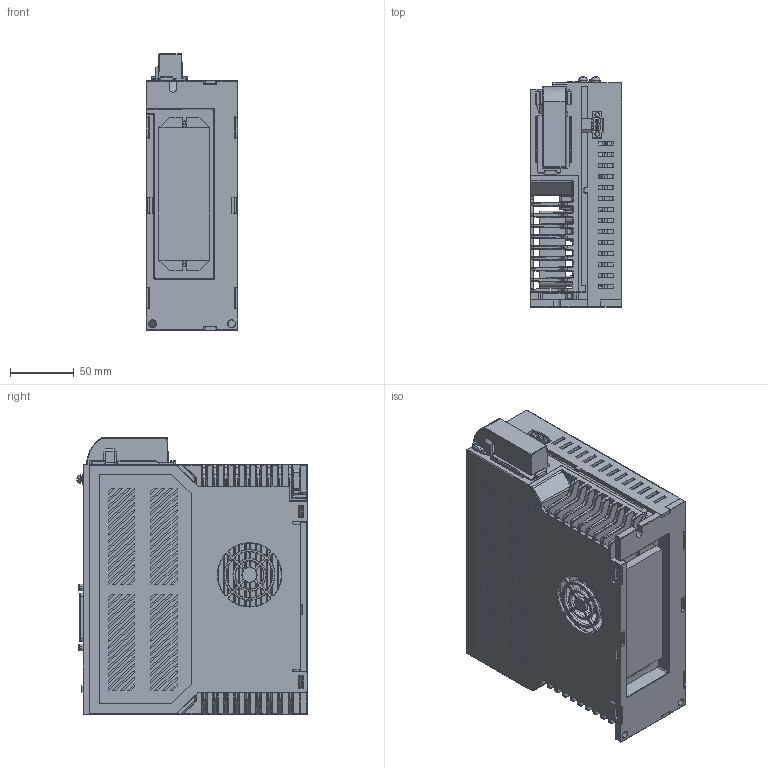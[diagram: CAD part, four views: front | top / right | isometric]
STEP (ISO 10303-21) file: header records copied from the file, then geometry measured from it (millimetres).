
FILE_DESCRIPTION((''),'2;1');
FILE_NAME('00-RT3000_ASM','2021-01-21T',('Administrator'),(''),'PRO/ENGINEER BY PARAMETRIC TECHNOLOGY CORPORATION, 2011310','PRO/ENGINEER BY PARAMETRIC TECHNOLOGY CORPORATION, 2011310','');
FILE_SCHEMA(('CONFIG_CONTROL_DESIGN','SHAPE_APPEARANCE_LAYERS_GROUPS'));
Products named in the file (20): RT3000-BODY; RT3000-BASE; RT3000-MAIN-PCB; FP50R06W2E3; GAT33008_T2; TRM_SRF-55; JACK-02; JACK-01; USB; PCB-DISPLAY; JACK-03; GSP001RW; RT3000-MAIN-PCB_ASM; RT3000-CLEAR-PARTS; RT3000-BUTTON; RT3000-DECORATIVE-PLATE; RXLB-1A-100W-50R; MR-J3BAT; RT3000-FAN; 00-RT3000_ASM
Assembly tree (19 placements, depth 3):
  00-RT3000_ASM
    RT3000-BODY
    RT3000-BASE
    RT3000-MAIN-PCB_ASM
      RT3000-MAIN-PCB
      FP50R06W2E3
      GAT33008_T2
      TRM_SRF-55
      JACK-02
      JACK-01
      USB
      PCB-DISPLAY
      JACK-03
      GSP001RW
    RT3000-CLEAR-PARTS
    RT3000-BUTTON
    RT3000-DECORATIVE-PLATE
    RXLB-1A-100W-50R
    MR-J3BAT
    RT3000-FAN
Bounding box: 72 x 180.93 x 217 mm (x, y, z)
Volume: 868781.2 mm3; surface area: 517935.6 mm2
Topology: 21 solids, 21 shells, 6534 faces, 16983 edges, 10880 vertices
Faces by surface type: plane 4493, cylinder 1402, bspline 268, torus 154, cone 139, sphere 73, extrusion 5
Entity records: 265888 total; most frequent: CARTESIAN_POINT 48408, ORIENTED_EDGE 33918, DIRECTION 31411, EDGE_CURVE 16959, PRESENTATION_STYLE_ASSIGNMENT 13976, VECTOR 13395, LINE 13390, STYLED_ITEM 13278
